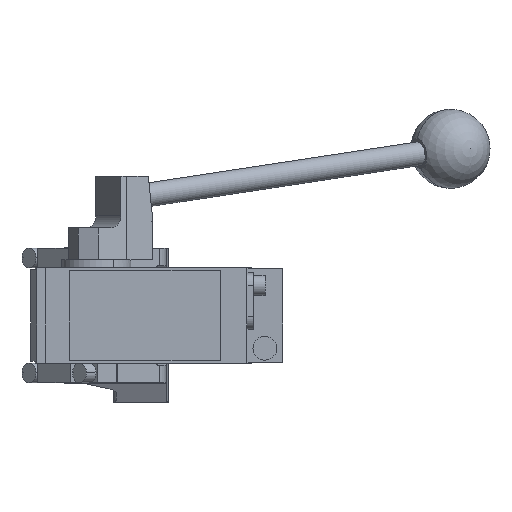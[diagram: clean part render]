
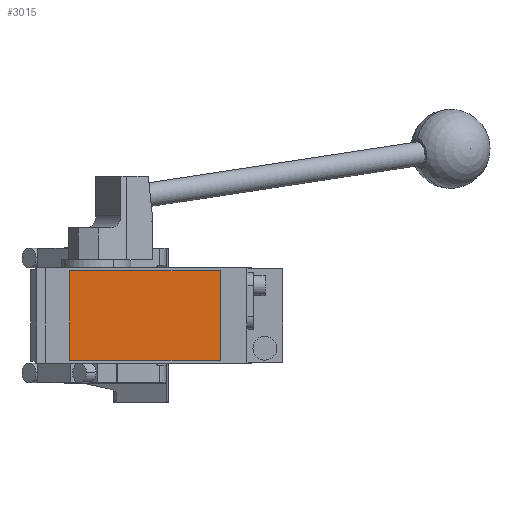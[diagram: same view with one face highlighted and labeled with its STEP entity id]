
A CAD part, front view. The second image highlights one B-rep face of the part: STEP entity #3015.
In plain terms, the highlighted planar face has unit normal (0, -1, 0).
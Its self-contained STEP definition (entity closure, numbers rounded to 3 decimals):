
#576 = LINE ( 'NONE', #4042, #14447 ) ;
#1584 = LINE ( 'NONE', #10906, #3369 ) ;
#2230 = FACE_OUTER_BOUND ( 'NONE', #3642, .T. ) ;
#2573 = AXIS2_PLACEMENT_3D ( 'NONE', #11405, #9065, #10425 ) ;
#2775 = VERTEX_POINT ( 'NONE', #13465 ) ;
#2892 = DIRECTION ( 'NONE',  ( 1., 0., 0. ) ) ;
#3015 = ADVANCED_FACE ( 'NONE', ( #2230 ), #5564, .T. ) ;
#3040 = CARTESIAN_POINT ( 'NONE',  ( 69., -280.5, -22.5 ) ) ;
#3369 = VECTOR ( 'NONE', #12250, 1000. ) ;
#3642 = EDGE_LOOP ( 'NONE', ( #8781, #6045, #8697, #13852 ) ) ;
#3655 = EDGE_CURVE ( 'NONE', #2775, #10448, #576, .T. ) ;
#3740 = DIRECTION ( 'NONE',  ( 0., 0., 1. ) ) ;
#3867 = VERTEX_POINT ( 'NONE', #13094 ) ;
#3961 = CARTESIAN_POINT ( 'NONE',  ( 69., -280.5, 22.5 ) ) ;
#4042 = CARTESIAN_POINT ( 'NONE',  ( -7., -280.5, -22.5 ) ) ;
#4289 = EDGE_CURVE ( 'NONE', #4527, #2775, #1584, .T. ) ;
#4527 = VERTEX_POINT ( 'NONE', #9226 ) ;
#4660 = EDGE_CURVE ( 'NONE', #3867, #4527, #5114, .T. ) ;
#5114 = LINE ( 'NONE', #14184, #11748 ) ;
#5564 = PLANE ( 'NONE',  #2573 ) ;
#6045 = ORIENTED_EDGE ( 'NONE', *, *, #3655, .T. ) ;
#8697 = ORIENTED_EDGE ( 'NONE', *, *, #13201, .T. ) ;
#8781 = ORIENTED_EDGE ( 'NONE', *, *, #4289, .T. ) ;
#8854 = VECTOR ( 'NONE', #3740, 1000. ) ;
#9065 = DIRECTION ( 'NONE',  ( 0., -1., 0. ) ) ;
#9226 = CARTESIAN_POINT ( 'NONE',  ( -7., -280.5, 22.5 ) ) ;
#10425 = DIRECTION ( 'NONE',  ( 0., 0., -1. ) ) ;
#10448 = VERTEX_POINT ( 'NONE', #3040 ) ;
#10797 = LINE ( 'NONE', #3961, #8854 ) ;
#10906 = CARTESIAN_POINT ( 'NONE',  ( -7., -280.5, 22.5 ) ) ;
#11405 = CARTESIAN_POINT ( 'NONE',  ( 0., -280.5, 0. ) ) ;
#11748 = VECTOR ( 'NONE', #14326, 1000. ) ;
#12250 = DIRECTION ( 'NONE',  ( 0., 0., -1. ) ) ;
#13094 = CARTESIAN_POINT ( 'NONE',  ( 69., -280.5, 22.5 ) ) ;
#13201 = EDGE_CURVE ( 'NONE', #10448, #3867, #10797, .T. ) ;
#13465 = CARTESIAN_POINT ( 'NONE',  ( -7., -280.5, -22.5 ) ) ;
#13852 = ORIENTED_EDGE ( 'NONE', *, *, #4660, .T. ) ;
#14184 = CARTESIAN_POINT ( 'NONE',  ( -7., -280.5, 22.5 ) ) ;
#14326 = DIRECTION ( 'NONE',  ( -1., 0., 0. ) ) ;
#14447 = VECTOR ( 'NONE', #2892, 1000. ) ;
